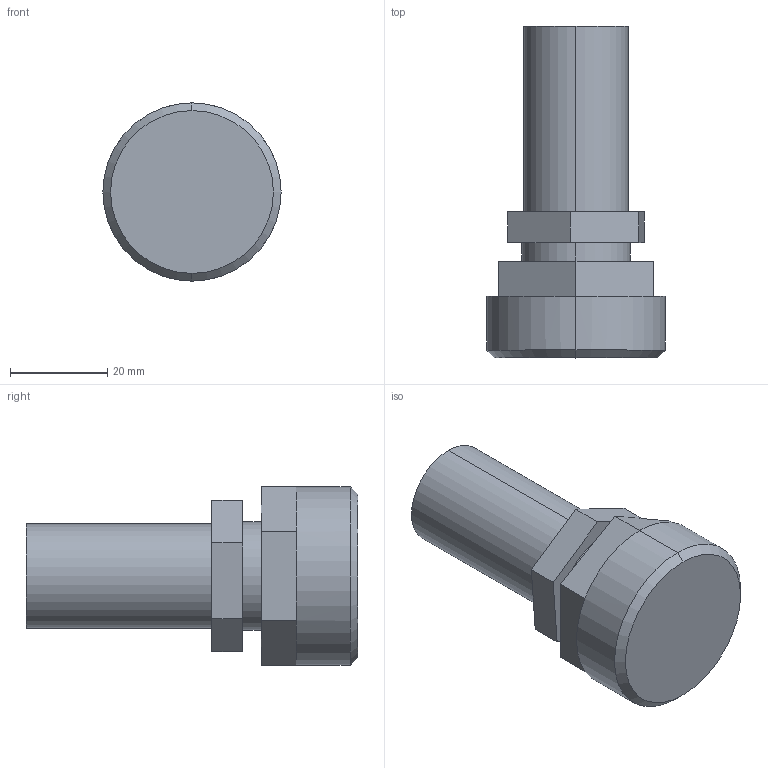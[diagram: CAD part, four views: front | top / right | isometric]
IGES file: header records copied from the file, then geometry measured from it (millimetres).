
Start section: SolidWorks IGES file using analytic representation for surfaces
Global section: file name: S:\Product Visuals\REVISED-30L-TOP-MOUNT-FITTINGS\IGS\top-straight-outlet-only\weldable\08-weldable-with-top-mount-adapter.IGS; native system: SolidWorks 2012; preprocessor: SolidWorks 2012; author: Rachel.Dressel; date: 121128.084227; units: inch
Bounding box: 36.6 x 68.12 x 36.66 mm (x, y, z)
Volume: 38723.1 mm3; surface area: 8156.7 mm2
Topology: 1 solids, 1 shells, 37 faces, 82 edges, 50 vertices
Faces by surface type: plane 29, revolution 8
